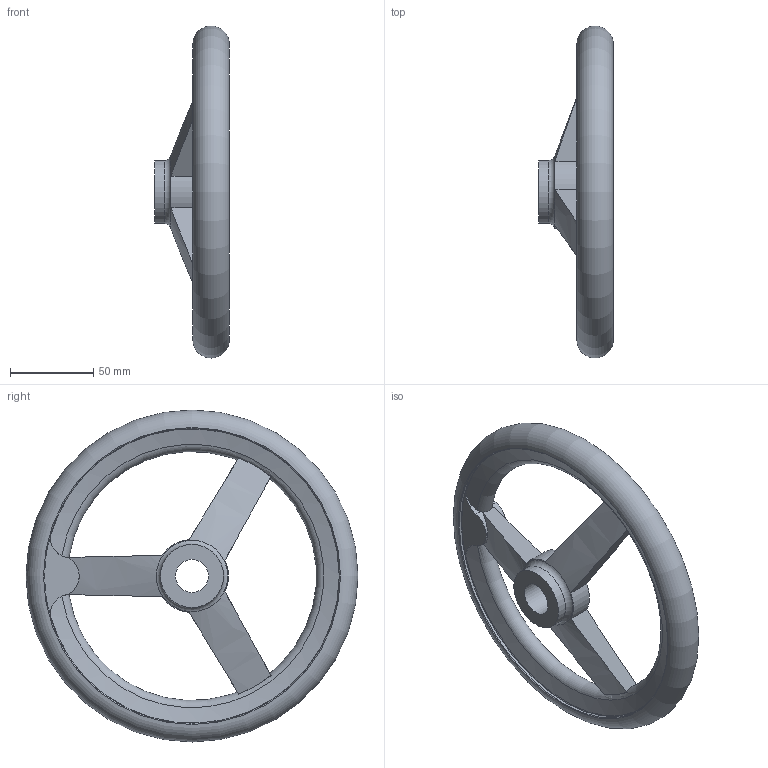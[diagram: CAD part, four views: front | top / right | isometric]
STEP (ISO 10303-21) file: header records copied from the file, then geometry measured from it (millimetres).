
FILE_DESCRIPTION( ( 'STEP AP203' ), '1' );
FILE_NAME( 'C:/Temp/Ganter_Step_05_03_2020/data/1_3/din_950/din_950_b/din_950_b_a/Handwheel DIN 950-GG-200-B20-A.stp', '2020-03-05T10:29:21', ( 'License CC BY-ND 4.0' ), ( 'CADENAS' ), ' ', 'PARTsolutions', ' ' );
FILE_SCHEMA( ( 'CONFIG_CONTROL_DESIGN' ) );
Length unit declared in the file: millimetre
Products named in the file (1): _Handwheel DIN 950-GG-200-B20-A
Bounding box: 45 x 200 x 200 mm (x, y, z)
Volume: 274551.1 mm3; surface area: 59027.8 mm2
Topology: 1 solids, 1 shells, 42 faces, 122 edges, 78 vertices
Faces by surface type: cylinder 14, torus 14, plane 10, cone 4
Full cylindrical faces by diameter (mm): 20 x1, 38 x2, 178 x2
Entity records: 1747 total; most frequent: CARTESIAN_POINT 719, ORIENTED_EDGE 208, DIRECTION 184, EDGE_CURVE 104, AXIS2_PLACEMENT_3D 85, VERTEX_POINT 75, EDGE_LOOP 60, FACE_OUTER_BOUND 54
